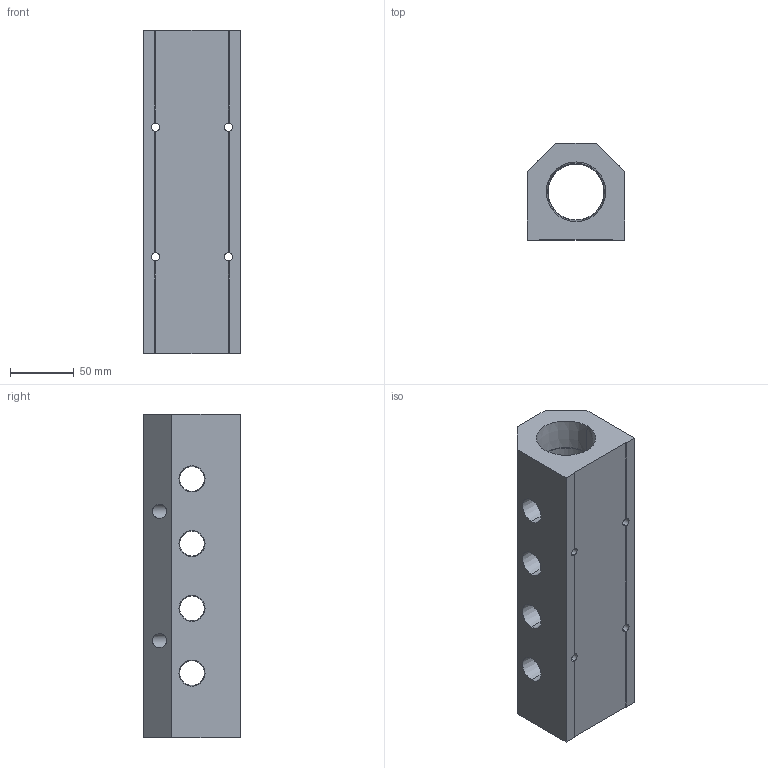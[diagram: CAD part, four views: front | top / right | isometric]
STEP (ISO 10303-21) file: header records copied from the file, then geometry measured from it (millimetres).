
FILE_DESCRIPTION (( 'STEP AP214' ), '1' );
FILE_NAME ('ALM4ACE-N8N24-254B.step', '2022-02-07T09:29:11', ( '' ), ( '' ), 'SwSTEP 2.0', 'SolidWorks 2020', '' );
FILE_SCHEMA (( 'AUTOMOTIVE_DESIGN' ));
Length unit declared in the file: millimetre
Products named in the file (1): ALM4ACE-N8N24-254B
Bounding box: 76.2 x 76.2 x 254 mm (x, y, z)
Volume: 876817.9 mm3; surface area: 124377.2 mm2
Topology: 1 solids, 1 shells, 342 faces, 915 edges, 602 vertices
Faces by surface type: plane 236, bspline 60, cone 28, cylinder 18
Entity records: 18665 total; most frequent: CARTESIAN_POINT 7260, ORIENTED_EDGE 1830, DIRECTION 1381, EDGE_CURVE 915, LINE 695, VECTOR 695, VERTEX_POINT 602, EDGE_LOOP 403
